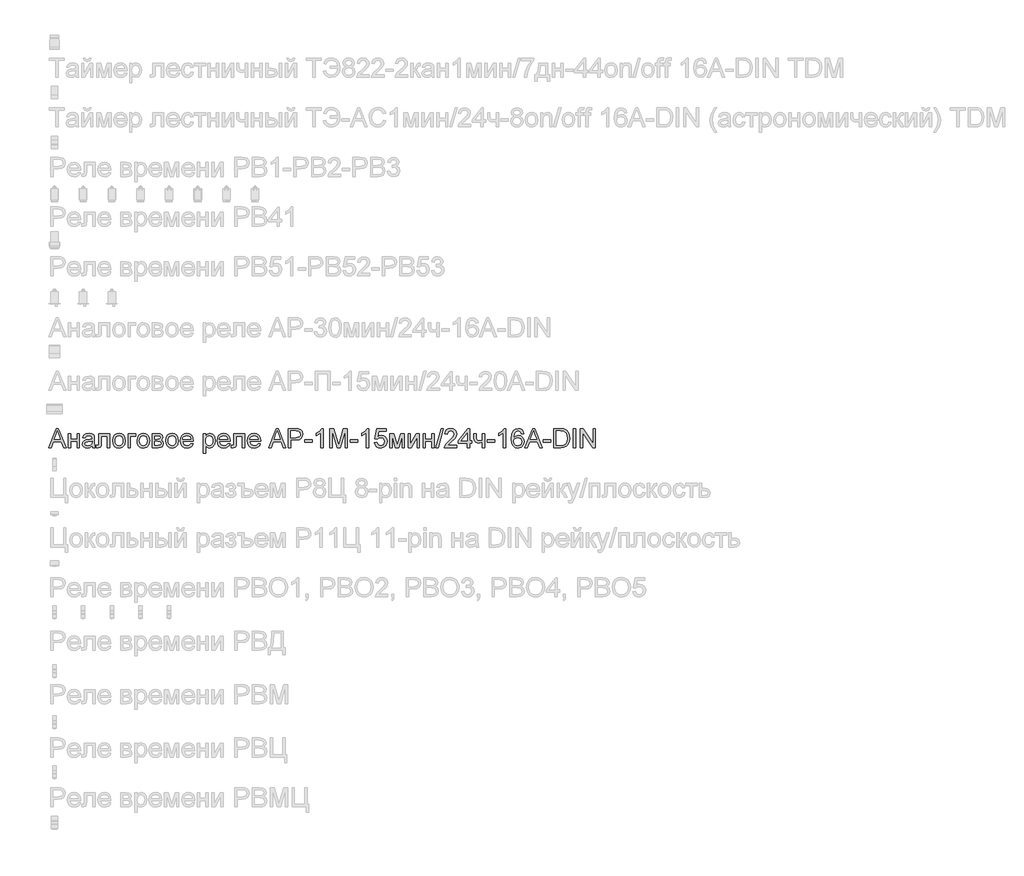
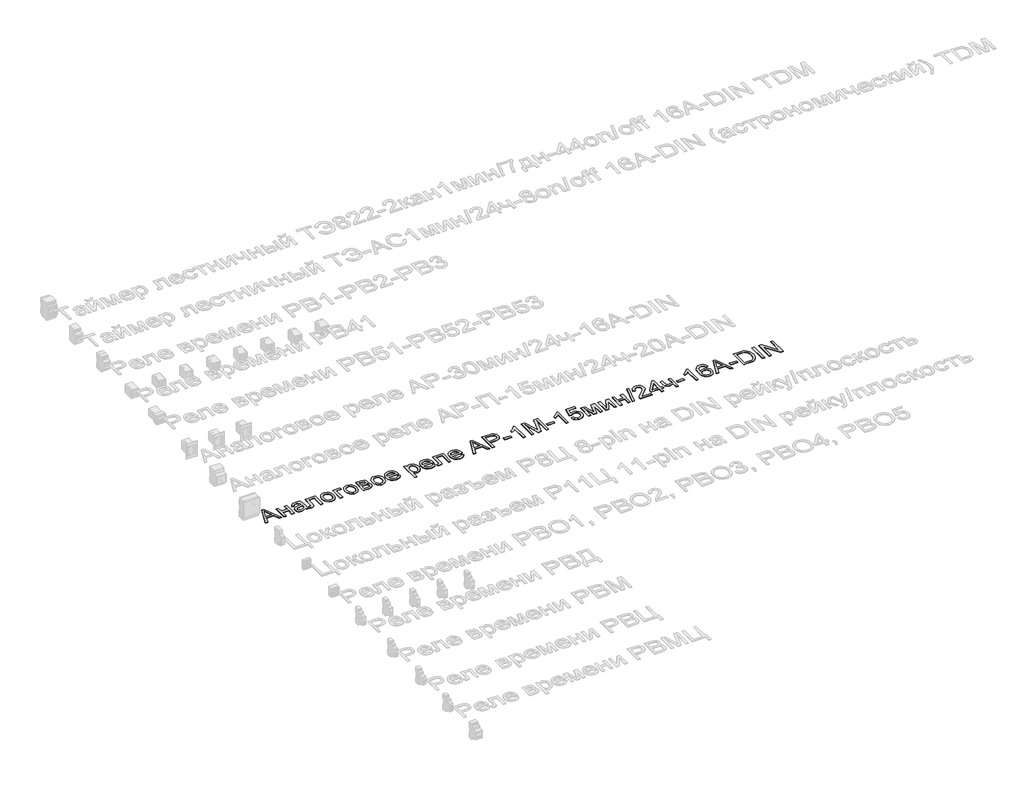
# One storey, part 25 of 34: 1 proxy.
"""IFC4 building model written with IfcOpenShell, lengths in millimetres."""

import ifcopenshell
import ifcopenshell.guid

model = None  # the IFC model being written
_history = None  # IfcOwnerHistory: only IFC2X3 demands one
_inside = {}  # id of a spatial element -> (the spatial element, [elements in it])
_under = {}  # id of a project, library or spatial element -> (it, [spatial elements below it])
_declared = {}  # id of a project -> (the project, [libraries it declares])
_typed = {}  # id of a type object -> (the type object, [elements of that type])
_made_of = {}  # id of a material, layer set ... -> (it, [elements and type objects made of it])


def new_model(schema):
    """Start an empty IFC model of exactly this schema.

    Asked for "IFC4X3", IfcOpenShell would pick the latest addendum, in which some entities
    have other attributes; the version numbers below select the first issue.
    IFC2X3 requires an IfcOwnerHistory on every rooted entity: one is made here for all.
    """
    global model, _history
    if schema == "IFC4X3":
        model = ifcopenshell.file(schema_version=(4, 3, 0, 0))
    else:
        model = ifcopenshell.file(schema=schema)
    _inside.clear()
    _under.clear()
    _declared.clear()
    _typed.clear()
    _made_of.clear()
    _history = None
    if model.schema == "IFC2X3":
        org = make("IfcOrganization", Name="unknown")
        user = make(
            "IfcPersonAndOrganization",
            ThePerson=make("IfcPerson", FamilyName="unknown"),
            TheOrganization=org,
        )
        app = make(
            "IfcApplication",
            ApplicationDeveloper=org,
            Version="unknown",
            ApplicationFullName="unknown",
            ApplicationIdentifier="unknown",
        )
        _history = make(
            "IfcOwnerHistory",
            OwningUser=user,
            OwningApplication=app,
            ChangeAction="ADDED",
            CreationDate=0,
        )
    return model


def make(cls, **values):
    """One entity of the class cls with the attributes given. An attribute that is None is left unset."""
    return model.create_entity(
        cls, **{name: value for name, value in values.items() if value is not None}
    )


def rooted(cls, **values):
    """An entity with a GlobalId (a new one), such as an element, a storey or a relation."""
    return make(cls, GlobalId=ifcopenshell.guid.new(), OwnerHistory=_history, **values)


def si_unit(unit_type, name, prefix=None):
    """IfcSIUnit, for example si_unit("LENGTHUNIT", "METRE", prefix="MILLI")."""
    return make("IfcSIUnit", UnitType=unit_type, Prefix=prefix, Name=name)


def assignment(units):
    """IfcUnitAssignment: the units of a project."""
    return None if units is None else make("IfcUnitAssignment", Units=units)


def point(xyz):
    """IfcCartesianPoint."""
    return None if xyz is None else make("IfcCartesianPoint", Coordinates=xyz)


def direction(xyz):
    """IfcDirection."""
    return None if xyz is None else make("IfcDirection", DirectionRatios=xyz)


def frame(location, z_axis=None, x_axis=None):
    """IfcAxis2Placement3D, a coordinate frame: its origin and axes. An axis left out is left unset."""
    return make(
        "IfcAxis2Placement3D",
        Location=point(location),
        Axis=direction(z_axis),
        RefDirection=direction(x_axis),
    )


def origin():
    """The frame at (0, 0, 0) with its axes left unset."""
    return frame((0.0, 0.0, 0.0))


def place(relative_to, where):
    """IfcLocalPlacement: puts the frame where relative to a parent placement (None: the world)."""
    return make(
        "IfcLocalPlacement", PlacementRelTo=relative_to, RelativePlacement=where
    )


def context(
    kind, dimensions, precision=None, world=None, true_north=None, identifier=None
):
    """IfcGeometricRepresentationContext, for example the 3D "Model" context."""
    return make(
        "IfcGeometricRepresentationContext",
        ContextIdentifier=identifier,
        ContextType=kind,
        CoordinateSpaceDimension=dimensions,
        Precision=precision,
        WorldCoordinateSystem=world,
        TrueNorth=true_north,
    )


def project(units=None, contexts=None):
    """IfcProject with its units and contexts."""
    return rooted(
        "IfcProject",
        Name="project",
        RepresentationContexts=contexts,
        UnitsInContext=assignment(units),
    )


def spatial(cls, under=None, at=None, **own):
    """A site, building, storey or space (cls), placed at a placement, below another one or the project."""
    s = rooted(cls, ObjectPlacement=at, **own)
    if under is not None:
        _under.setdefault(under.id(), (under, []))[1].append(s)
    return s


def polyline(points):
    """IfcPolyline through the points."""
    return make("IfcPolyline", Points=[point(p) for p in points])


def outline(outer, holes=None, kind="AREA"):
    """IfcArbitraryClosedProfileDef: a profile drawn as a closed curve; with holes, ...WithVoids."""
    if holes is None:
        return make("IfcArbitraryClosedProfileDef", ProfileType=kind, OuterCurve=outer)
    return make(
        "IfcArbitraryProfileDefWithVoids",
        ProfileType=kind,
        OuterCurve=outer,
        InnerCurves=holes,
    )


def extrude(swept, where, along, depth):
    """IfcExtrudedAreaSolid: the profile swept, set in the frame where, extruded along a direction by depth."""
    return make(
        "IfcExtrudedAreaSolid",
        SweptArea=swept,
        Position=where,
        ExtrudedDirection=direction(along),
        Depth=depth,
    )


def shape(context_of_items, identifier, shape_type, items):
    """IfcShapeRepresentation: the items that make up one representation, for example the "Body"."""
    return make(
        "IfcShapeRepresentation",
        ContextOfItems=context_of_items,
        RepresentationIdentifier=identifier,
        RepresentationType=shape_type,
        Items=items,
    )


def made_of(thing, what):
    """Note that an element or type object is made of a material, layer set ...; save() writes the relation."""
    if what is not None:
        _made_of.setdefault(what.id(), (what, []))[1].append(thing)
    return thing


def element(
    cls,
    number,
    at=None,
    inside=None,
    cuts=None,
    type_object=None,
    material=None,
    context=None,
    identifier="Body",
    shape_type=None,
    held_by="IfcProductDefinitionShape",
    body=None,
    shapes=None,
    **own,
):
    """One element of the class cls, such as IfcWall. Its Tag is "e" and its number.

    at: its placement. inside: the storey or other place that contains it. cuts: it is an
    opening in that element (IfcRelVoidsElement). A single representation is given by context,
    identifier, shape_type and body (its items); several are given by shapes. held_by: the class
    of the entity that holds the representations. save() writes the other relations.
    """
    e = rooted(cls, Tag="e%d" % number, ObjectPlacement=at, **own)
    if body is not None:
        shapes = [shape(context, identifier, shape_type, body)]
    if shapes is not None:
        e.Representation = make(held_by, Representations=shapes)
    if inside is not None:
        _inside.setdefault(inside.id(), (inside, []))[1].append(e)
    if cuts is not None:
        rooted(
            "IfcRelVoidsElement", RelatingBuildingElement=cuts, RelatedOpeningElement=e
        )
    if type_object is not None:
        _typed.setdefault(type_object.id(), (type_object, []))[1].append(e)
    return made_of(e, material)


def aggregate(whole, parts):
    """IfcRelAggregates: a whole, such as a stair, and the parts it consists of."""
    return rooted("IfcRelAggregates", RelatingObject=whole, RelatedObjects=parts)


def save(model, path):
    """Write the relations noted so far, then the file.

    IfcRelAggregates (storeys below a building ...), IfcRelContainedInSpatialStructure (elements
    in a storey), IfcRelDefinesByType, IfcRelAssociatesMaterial and IfcRelDeclares: one each for
    every whole, place, type object, material and project.
    """
    for whole, parts in _under.values():
        aggregate(whole, parts)
    for where, things in _inside.values():
        rooted(
            "IfcRelContainedInSpatialStructure",
            RelatedElements=things,
            RelatingStructure=where,
        )
    for kind, things in _typed.values():
        rooted("IfcRelDefinesByType", RelatedObjects=things, RelatingType=kind)
    for what, things in _made_of.values():
        rooted("IfcRelAssociatesMaterial", RelatedObjects=things, RelatingMaterial=what)
    for by, libraries in _declared.values():
        rooted("IfcRelDeclares", RelatingContext=by, RelatedDefinitions=libraries)
    model.write(path)


model = new_model("IFC4")

# Units and contexts
model_context = context("Model", 3, world=origin())
ifc_project = project(units=[si_unit("LENGTHUNIT", "METRE", prefix="MILLI")], contexts=[model_context])

# Site, building, storey
site = spatial("IfcSite", under=ifc_project)
building = spatial("IfcBuilding", under=site)
storey = spatial("IfcBuildingStorey", under=building, Name="Этаж 01", Elevation=0.0)

# Proxy
placement = place(None, origin())
element("IfcBuildingElementProxy", 1, Name="Надпись на модели 1", ObjectType="Надпись на модели 1", at=placement, inside=storey, context=model_context, shape_type="SweptSolid", body=[
    extrude(outline(polyline([(-19050.7112385, 15376.235284), (-19010.612101, 15476.6915941), (-18999.9189977, 15476.6915941), (-18959.8198602, 15376.235284), (-18973.0881375, 15376.235284), (-18984.5905813, 15407.6278809), (-19025.965043, 15407.6278809), (-19037.4429612, 15376.235284), (-19050.7112385, 15376.235284)]), holes=[polyline([(-19021.3542553, 15420.1849197), (-18989.1768435, 15420.1849197), (-18998.2267405, 15444.8820643), (-19005.2655494, 15464.1345554), (-19011.5195433, 15447.0403053), (-19021.3542553, 15420.1849197)])]), frame((0.0, 0.0, 40.0), z_axis=(0.0, 0.0, 1.0), x_axis=(1.0, 0.0, 0.0)), (0.0, 0.0, 1.0), 2.0),
    extrude(outline(polyline([(-18947.97406, 15450.0078868), (-18935.4170212, 15450.0078868), (-18935.4170212, 15421.7545495), (-18902.4547945, 15421.7545495), (-18902.4547945, 15450.0078868), (-18889.8977557, 15450.0078868), (-18889.8977557, 15376.235284), (-18902.4547945, 15376.235284), (-18902.4547945, 15409.1975108), (-18935.4170212, 15409.1975108), (-18935.4170212, 15376.235284), (-18947.97406, 15376.235284), (-18947.97406, 15450.0078868)])), frame((0.0, 0.0, 40.0), z_axis=(0.0, 0.0, 1.0), x_axis=(1.0, 0.0, 0.0)), (0.0, 0.0, 1.0), 2.0),
    extrude(outline(polyline([(-18823.9733022, 15385.6530631), (-18836.1501962, 15377.1427262), (-18849.6024145, 15374.6656541), (-18860.0962484, 15376.1555762), (-18867.8370987, 15380.6253425), (-18872.6103676, 15387.4127653), (-18874.2014572, 15395.8556571), (-18871.7979615, 15405.7884709), (-18865.482654, 15412.998958), (-18856.6902743, 15417.1192364), (-18845.8254927, 15419.0076973), (-18824.0468786, 15423.3241794), (-18823.9733022, 15426.1200825), (-18827.4313929, 15435.3907088), (-18841.3128069, 15439.0204778), (-18854.0169984, 15436.6047194), (-18860.0747886, 15428.0330689), (-18872.6318274, 15429.6026988), (-18867.1994366, 15441.8654319), (-18856.2610786, 15449.0513936), (-18839.6941261, 15451.5775166), (-18824.4760742, 15449.3456992), (-18815.8798983, 15443.7416301), (-18812.0294001, 15435.2190306), (-18811.4162634, 15424.2316216), (-18811.4162634, 15408.6088996), (-18810.7786013, 15386.7934973), (-18808.2770037, 15376.235284), (-18820.8340425, 15376.235284), (-18823.9733022, 15385.6530631)]), holes=[polyline([(-18823.9733022, 15410.7671406), (-18844.2313374, 15406.9166424), (-18855.0348053, 15404.8810287), (-18859.9276358, 15401.5700907), (-18861.6444185, 15396.7385739), (-18857.9042849, 15389.9450197), (-18846.9291387, 15387.2226929), (-18834.2249471, 15390.2270625), (-18826.0334413, 15397.4988633), (-18824.0468786, 15407.210948), (-18823.9733022, 15410.7671406)])]), frame((0.0, 0.0, 40.0), z_axis=(0.0, 0.0, 1.0), x_axis=(1.0, 0.0, 0.0)), (0.0, 0.0, 1.0), 2.0),
    extrude(outline(polyline([(-18787.8718157, 15450.0078868), (-18731.3651412, 15450.0078868), (-18731.3651412, 15376.3088604), (-18743.92218, 15376.3088604), (-18743.92218, 15437.450848), (-18775.3147769, 15437.450848), (-18775.3147769, 15402.2568038), (-18776.1609055, 15386.0209451), (-18780.8084814, 15379.1660772), (-18791.7958903, 15376.235284), (-18801.9984843, 15376.8729461), (-18801.9984843, 15388.7923228), (-18796.3821525, 15388.7923228), (-18790.7045071, 15389.564875), (-18788.4359014, 15392.0174216), (-18787.8718157, 15402.9680423), (-18787.8718157, 15450.0078868)])), frame((0.0, 0.0, 40.0), z_axis=(0.0, 0.0, 1.0), x_axis=(1.0, 0.0, 0.0)), (0.0, 0.0, 1.0), 2.0),
    extrude(outline(polyline([(-18715.6688428, 15413.1215854), (-18712.9526474, 15430.9086798), (-18704.8040612, 15443.4105363), (-18694.7363573, 15449.5357715), (-18682.6820905, 15451.5775166), (-18669.4904553, 15449.0912475), (-18658.9537019, 15441.63244), (-18652.0467174, 15429.7897054), (-18649.7443892, 15414.151655), (-18653.8156167, 15391.8089551), (-18665.6736796, 15379.1660772), (-18682.6820905, 15374.6656541), (-18696.0331413, 15377.1427262), (-18706.557632, 15384.5739426), (-18713.3910401, 15396.6649975), (-18715.6688428, 15413.1215854)]), holes=[polyline([(-18703.111804, 15413.1461108), (-18701.6586701, 15401.7816229), (-18697.2992685, 15393.6851533), (-18690.7387062, 15388.838308), (-18682.6820905, 15387.2226929), (-18674.6622631, 15388.8475051), (-18668.1139635, 15393.7219415), (-18663.7545619, 15401.92571), (-18662.301428, 15413.5385183), (-18663.7637589, 15424.5719125), (-18668.1507517, 15432.5580175), (-18674.7082483, 15437.4048627), (-18682.6820905, 15439.0204778), (-18690.7387062, 15437.4109941), (-18697.2992685, 15432.5825429), (-18701.6586701, 15424.5044674), (-18703.111804, 15413.1461108)])]), frame((0.0, 0.0, 40.0), z_axis=(0.0, 0.0, 1.0), x_axis=(1.0, 0.0, 0.0)), (0.0, 0.0, 1.0), 2.0),
    extrude(outline(polyline([(-18635.6177206, 15450.0078868), (-18594.8073446, 15450.0078868), (-18594.8073446, 15437.450848), (-18623.0606819, 15437.450848), (-18623.0606819, 15376.235284), (-18635.6177206, 15376.235284), (-18635.6177206, 15450.0078868)])), frame((0.0, 0.0, 40.0), z_axis=(0.0, 0.0, 1.0), x_axis=(1.0, 0.0, 0.0)), (0.0, 0.0, 1.0), 2.0),
    extrude(outline(polyline([(-18588.5288253, 15413.1215854), (-18585.8126299, 15430.9086798), (-18577.6640437, 15443.4105363), (-18567.5963397, 15449.5357715), (-18555.542073, 15451.5775166), (-18542.3504378, 15449.0912475), (-18531.8136843, 15441.63244), (-18524.9066999, 15429.7897054), (-18522.6043717, 15414.151655), (-18526.6755991, 15391.8089551), (-18538.5336621, 15379.1660772), (-18555.542073, 15374.6656541), (-18568.8931238, 15377.1427262), (-18579.4176145, 15384.5739426), (-18586.2510226, 15396.6649975), (-18588.5288253, 15413.1215854)]), holes=[polyline([(-18575.9717865, 15413.1461108), (-18574.5186526, 15401.7816229), (-18570.159251, 15393.6851533), (-18563.5986887, 15388.838308), (-18555.542073, 15387.2226929), (-18547.5222455, 15388.8475051), (-18540.973946, 15393.7219415), (-18536.6145444, 15401.92571), (-18535.1614105, 15413.5385183), (-18536.6237414, 15424.5719125), (-18541.0107342, 15432.5580175), (-18547.5682308, 15437.4048627), (-18555.542073, 15439.0204778), (-18563.5986887, 15437.4109941), (-18570.159251, 15432.5825429), (-18574.5186526, 15424.5044674), (-18575.9717865, 15413.1461108)])]), frame((0.0, 0.0, 40.0), z_axis=(0.0, 0.0, 1.0), x_axis=(1.0, 0.0, 0.0)), (0.0, 0.0, 1.0), 2.0),
    extrude(outline(polyline([(-18508.4777031, 15450.0078868), (-18480.8129771, 15450.0078868), (-18465.6439761, 15448.3278923), (-18457.1091138, 15442.1720003), (-18453.5406585, 15431.4421087), (-18455.6988995, 15422.7233055), (-18462.1981481, 15416.5060997), (-18453.7613877, 15409.7002828), (-18450.4013988, 15397.8667453), (-18452.528983, 15388.2956821), (-18457.5873604, 15381.5573102), (-18465.5949252, 15377.5657905), (-18476.5700714, 15376.235284), (-18508.4777031, 15376.235284), (-18508.4777031, 15450.0078868)]), holes=[polyline([(-18495.9206643, 15388.7923228), (-18480.5186715, 15388.7923228), (-18466.8579867, 15391.0609284), (-18462.9584376, 15398.8968149), (-18465.1044159, 15404.9423424), (-18470.6962222, 15408.4617468), (-18481.7449448, 15409.1975108), (-18495.9206643, 15409.1975108), (-18495.9206643, 15388.7923228)]), polyline([(-18495.9206643, 15421.7545495), (-18483.5107784, 15421.7545495), (-18473.2713962, 15422.3922117), (-18468.2927265, 15424.9428602), (-18466.0976973, 15429.5536478), (-18469.9481955, 15435.7095399), (-18483.1183709, 15437.450848), (-18495.9206643, 15437.450848), (-18495.9206643, 15421.7545495)])]), frame((0.0, 0.0, 40.0), z_axis=(0.0, 0.0, 1.0), x_axis=(1.0, 0.0, 0.0)), (0.0, 0.0, 1.0), 2.0),
    extrude(outline(polyline([(-18437.84436, 15413.1215854), (-18435.1281646, 15430.9086798), (-18426.9795784, 15443.4105363), (-18416.9118745, 15449.5357715), (-18404.8576078, 15451.5775166), (-18391.6659726, 15449.0912475), (-18381.1292191, 15441.63244), (-18374.2222346, 15429.7897054), (-18371.9199065, 15414.151655), (-18375.9911339, 15391.8089551), (-18387.8491969, 15379.1660772), (-18404.8576078, 15374.6656541), (-18418.2086585, 15377.1427262), (-18428.7331493, 15384.5739426), (-18435.5665573, 15396.6649975), (-18437.84436, 15413.1215854)]), holes=[polyline([(-18425.2873213, 15413.1461108), (-18423.8341874, 15401.7816229), (-18419.4747857, 15393.6851533), (-18412.9142235, 15388.838308), (-18404.8576078, 15387.2226929), (-18396.8377803, 15388.8475051), (-18390.2894808, 15393.7219415), (-18385.9300791, 15401.92571), (-18384.4769453, 15413.5385183), (-18385.9392762, 15424.5719125), (-18390.326269, 15432.5580175), (-18396.8837655, 15437.4048627), (-18404.8576078, 15439.0204778), (-18412.9142235, 15437.4109941), (-18419.4747857, 15432.5825429), (-18423.8341874, 15424.5044674), (-18425.2873213, 15413.1461108)])]), frame((0.0, 0.0, 40.0), z_axis=(0.0, 0.0, 1.0), x_axis=(1.0, 0.0, 0.0)), (0.0, 0.0, 1.0), 2.0),
    extrude(outline(polyline([(-18306.1426058, 15398.2101018), (-18293.8308216, 15396.640472), (-18298.2668654, 15387.3637143), (-18305.3455281, 15380.4291387), (-18314.9073943, 15376.1065253), (-18326.7930484, 15374.6656541), (-18341.5267223, 15377.1519233), (-18352.8636191, 15384.6107308), (-18360.0925003, 15396.5576985), (-18362.5021274, 15412.5084487), (-18360.0679749, 15428.9956935), (-18352.7655173, 15441.3258717), (-18341.5819046, 15449.0146054), (-18327.5042869, 15451.5775166), (-18313.865062, 15449.0207367), (-18302.9665579, 15441.3503971), (-18295.8204501, 15429.0447444), (-18293.4384142, 15412.5820251), (-18293.5119906, 15409.1975108), (-18349.9450886, 15409.1975108), (-18347.7715192, 15399.7981258), (-18342.7223388, 15392.8880756), (-18335.4352096, 15388.6390386), (-18326.5477938, 15387.2226929), (-18314.2360096, 15389.8469178), (-18306.1426058, 15398.2101018)]), holes=[polyline([(-18349.9450886, 15421.7545495), (-18305.995453, 15421.7545495), (-18311.0231736, 15433.1343659), (-18318.3440253, 15437.5489499), (-18327.5533379, 15439.0204778), (-18343.0166444, 15434.323851), (-18347.8818838, 15428.8332123), (-18349.9450886, 15421.7545495)])]), frame((0.0, 0.0, 40.0), z_axis=(0.0, 0.0, 1.0), x_axis=(1.0, 0.0, 0.0)), (0.0, 0.0, 1.0), 2.0),
    extrude(outline(polyline([(-18241.6406293, 15347.9819468), (-18241.6406293, 15450.0078868), (-18229.0835905, 15450.0078868), (-18229.0835905, 15437.6961027), (-18220.4015754, 15448.1071631), (-18208.6784025, 15451.5775166), (-18192.7613748, 15446.7214743), (-18182.3625771, 15433.036264), (-18178.8554354, 15413.6856711), (-18182.8162982, 15393.3417968), (-18194.318742, 15379.4849083), (-18210.1989814, 15374.6656541), (-18221.1250767, 15377.890753), (-18229.0835905, 15386.0454705), (-18229.0835905, 15347.9819468), (-18241.6406293, 15347.9819468)]), holes=[polyline([(-18229.0835905, 15412.5329742), (-18227.7254928, 15401.2757851), (-18223.6511997, 15393.4031104), (-18217.6393948, 15388.7677973), (-18210.4687615, 15387.2226929), (-18203.1816324, 15388.8229796), (-18197.0165432, 15393.6238396), (-18192.8134915, 15401.7846886), (-18191.4124742, 15413.4649419), (-18192.7797689, 15424.6608173), (-18196.8816532, 15432.6438566), (-18202.8842611, 15437.4263225), (-18209.9537267, 15439.0204778), (-18217.0507836, 15437.325155), (-18223.2833177, 15432.2391864), (-18227.6335223, 15423.9219876), (-18229.0835905, 15412.5329742)])]), frame((0.0, 0.0, 40.0), z_axis=(0.0, 0.0, 1.0), x_axis=(1.0, 0.0, 0.0)), (0.0, 0.0, 1.0), 2.0),
    extrude(outline(polyline([(-18113.0781347, 15398.2101018), (-18100.7663506, 15396.640472), (-18105.2023943, 15387.3637143), (-18112.281057, 15380.4291387), (-18121.8429232, 15376.1065253), (-18133.7285773, 15374.6656541), (-18148.4622513, 15377.1519233), (-18159.7991481, 15384.6107308), (-18167.0280293, 15396.5576985), (-18169.4376563, 15412.5084487), (-18167.0035038, 15428.9956935), (-18159.7010462, 15441.3258717), (-18148.5174336, 15449.0146054), (-18134.4398159, 15451.5775166), (-18120.8005909, 15449.0207367), (-18109.9020868, 15441.3503971), (-18102.755979, 15429.0447444), (-18100.3739431, 15412.5820251), (-18100.4475195, 15409.1975108), (-18156.8806176, 15409.1975108), (-18154.7070481, 15399.7981258), (-18149.6578677, 15392.8880756), (-18142.3707385, 15388.6390386), (-18133.4833227, 15387.2226929), (-18121.1715386, 15389.8469178), (-18113.0781347, 15398.2101018)]), holes=[polyline([(-18156.8806176, 15421.7545495), (-18112.9309819, 15421.7545495), (-18117.9587025, 15433.1343659), (-18125.2795542, 15437.5489499), (-18134.4888668, 15439.0204778), (-18149.9521733, 15434.323851), (-18154.8174127, 15428.8332123), (-18156.8806176, 15421.7545495)])]), frame((0.0, 0.0, 40.0), z_axis=(0.0, 0.0, 1.0), x_axis=(1.0, 0.0, 0.0)), (0.0, 0.0, 1.0), 2.0),
    extrude(outline(polyline([(-18081.538385, 15450.0078868), (-18025.0317105, 15450.0078868), (-18025.0317105, 15376.3088604), (-18037.5887493, 15376.3088604), (-18037.5887493, 15437.450848), (-18068.9813462, 15437.450848), (-18068.9813462, 15402.2568038), (-18069.8274748, 15386.0209451), (-18074.4750507, 15379.1660772), (-18085.4624596, 15376.235284), (-18095.6650536, 15376.8729461), (-18095.6650536, 15388.7923228), (-18090.0487218, 15388.7923228), (-18084.3710763, 15389.564875), (-18082.1024707, 15392.0174216), (-18081.538385, 15402.9680423), (-18081.538385, 15450.0078868)])), frame((0.0, 0.0, 40.0), z_axis=(0.0, 0.0, 1.0), x_axis=(1.0, 0.0, 0.0)), (0.0, 0.0, 1.0), 2.0),
    extrude(outline(polyline([(-17954.5455202, 15398.2101018), (-17942.2337361, 15396.640472), (-17946.6697798, 15387.3637143), (-17953.7484426, 15380.4291387), (-17963.3103088, 15376.1065253), (-17975.1959629, 15374.6656541), (-17989.9296368, 15377.1519233), (-18001.2665336, 15384.6107308), (-18008.4954148, 15396.5576985), (-18010.9050419, 15412.5084487), (-18008.4708894, 15428.9956935), (-18001.1684318, 15441.3258717), (-17989.9848191, 15449.0146054), (-17975.9072014, 15451.5775166), (-17962.2679764, 15449.0207367), (-17951.3694723, 15441.3503971), (-17944.2233646, 15429.0447444), (-17941.8413287, 15412.5820251), (-17941.9149051, 15409.1975108), (-17998.3480031, 15409.1975108), (-17996.1744337, 15399.7981258), (-17991.1252533, 15392.8880756), (-17983.8381241, 15388.6390386), (-17974.9507082, 15387.2226929), (-17962.6389241, 15389.8469178), (-17954.5455202, 15398.2101018)]), holes=[polyline([(-17998.3480031, 15421.7545495), (-17954.3983674, 15421.7545495), (-17959.426088, 15433.1343659), (-17966.7469397, 15437.5489499), (-17975.9562523, 15439.0204778), (-17991.4195589, 15434.323851), (-17996.2847983, 15428.8332123), (-17998.3480031, 15421.7545495)])]), frame((0.0, 0.0, 40.0), z_axis=(0.0, 0.0, 1.0), x_axis=(1.0, 0.0, 0.0)), (0.0, 0.0, 1.0), 2.0),
    extrude(outline(polyline([(-17900.1725613, 15376.235284), (-17860.0734239, 15476.6915941), (-17849.3803205, 15476.6915941), (-17809.2811831, 15376.235284), (-17822.5494604, 15376.235284), (-17834.0519041, 15407.6278809), (-17875.4263658, 15407.6278809), (-17886.904284, 15376.235284), (-17900.1725613, 15376.235284)]), holes=[polyline([(-17870.8155781, 15420.1849197), (-17838.6381663, 15420.1849197), (-17847.6880634, 15444.8820643), (-17854.7268722, 15464.1345554), (-17860.9808661, 15447.0403053), (-17870.8155781, 15420.1849197)])]), frame((0.0, 0.0, 40.0), z_axis=(0.0, 0.0, 1.0), x_axis=(1.0, 0.0, 0.0)), (0.0, 0.0, 1.0), 2.0),
    extrude(outline(polyline([(-17795.865753, 15376.235284), (-17795.865753, 15476.6915941), (-17758.6360951, 15476.6915941), (-17743.6265097, 15475.735101), (-17731.4250902, 15471.0384742), (-17723.5156273, 15461.3263895), (-17720.5235204, 15447.6289165), (-17722.5438057, 15435.7892476), (-17728.6046615, 15425.9238788), (-17739.9384927, 15419.2652147), (-17757.7777037, 15417.04566), (-17783.3087142, 15417.04566), (-17783.3087142, 15376.235284), (-17795.865753, 15376.235284)]), holes=[polyline([(-17783.3087142, 15429.6026988), (-17757.0419398, 15429.6026988), (-17738.5497381, 15434.2134864), (-17734.4478539, 15439.7623732), (-17733.0805591, 15447.1874581), (-17736.305658, 15457.5862559), (-17744.7792066, 15463.2761641), (-17757.3362453, 15464.1345554), (-17783.3087142, 15464.1345554), (-17783.3087142, 15429.6026988)])]), frame((0.0, 0.0, 40.0), z_axis=(0.0, 0.0, 1.0), x_axis=(1.0, 0.0, 0.0)), (0.0, 0.0, 1.0), 2.0),
    extrude(outline(polyline([(-17711.1057413, 15406.0582511), (-17711.1057413, 15418.6152898), (-17671.8649951, 15418.6152898), (-17671.8649951, 15406.0582511), (-17711.1057413, 15406.0582511)])), frame((0.0, 0.0, 40.0), z_axis=(0.0, 0.0, 1.0), x_axis=(1.0, 0.0, 0.0)), (0.0, 0.0, 1.0), 2.0),
    extrude(outline(polyline([(-17613.7886908, 15376.235284), (-17626.3457296, 15376.235284), (-17626.3457296, 15454.5205726), (-17638.2405808, 15446.0470239), (-17651.4598071, 15439.7071909), (-17651.4598071, 15451.5775166), (-17633.0534446, 15463.325215), (-17621.8820947, 15476.6915941), (-17613.7886908, 15476.6915941), (-17613.7886908, 15376.235284)])), frame((0.0, 0.0, 40.0), z_axis=(0.0, 0.0, 1.0), x_axis=(1.0, 0.0, 0.0)), (0.0, 0.0, 1.0), 2.0),
    extrude(outline(polyline([(-17579.2568342, 15376.235284), (-17579.2568342, 15476.6915941), (-17557.6498984, 15476.6915941), (-17537.0975576, 15405.8865728), (-17532.9527538, 15391.0977166), (-17528.4645934, 15407.1128461), (-17508.2556091, 15476.6915941), (-17486.6486733, 15476.6915941), (-17486.6486733, 15376.235284), (-17499.2057121, 15376.235284), (-17499.2057121, 15464.1345554), (-17524.4424169, 15376.235284), (-17541.4630906, 15376.235284), (-17566.6997954, 15464.1345554), (-17566.6997954, 15376.235284), (-17579.2568342, 15376.235284)])), frame((0.0, 0.0, 40.0), z_axis=(0.0, 0.0, 1.0), x_axis=(1.0, 0.0, 0.0)), (0.0, 0.0, 1.0), 2.0),
    extrude(outline(polyline([(-17472.5220047, 15406.0582511), (-17472.5220047, 15418.6152898), (-17433.2812585, 15418.6152898), (-17433.2812585, 15406.0582511), (-17472.5220047, 15406.0582511)])), frame((0.0, 0.0, 40.0), z_axis=(0.0, 0.0, 1.0), x_axis=(1.0, 0.0, 0.0)), (0.0, 0.0, 1.0), 2.0),
    extrude(outline(polyline([(-17375.2049542, 15376.235284), (-17387.761993, 15376.235284), (-17387.761993, 15454.5205726), (-17399.6568442, 15446.0470239), (-17412.8760705, 15439.7071909), (-17412.8760705, 15451.5775166), (-17394.469708, 15463.325215), (-17383.2983581, 15476.6915941), (-17375.2049542, 15476.6915941), (-17375.2049542, 15376.235284)])), frame((0.0, 0.0, 40.0), z_axis=(0.0, 0.0, 1.0), x_axis=(1.0, 0.0, 0.0)), (0.0, 0.0, 1.0), 2.0),
    extrude(outline(polyline([(-17345.3819871, 15402.9189914), (-17332.8249484, 15404.4886212), (-17326.4973781, 15391.5514377), (-17313.3762536, 15387.2226929), (-17304.3754074, 15388.7279434), (-17297.6309042, 15393.2436949), (-17293.4186553, 15400.2487812), (-17292.0145724, 15409.2220362), (-17297.2752849, 15424.1335198), (-17303.8818324, 15428.235404), (-17313.1800498, 15429.6026988), (-17324.204247, 15427.4199323), (-17331.2553185, 15421.7545495), (-17343.8123573, 15423.3241794), (-17332.8249484, 15475.1219643), (-17284.1664232, 15475.1219643), (-17284.1664232, 15462.5649255), (-17322.6714053, 15462.5649255), (-17328.0424824, 15434.9001995), (-17319.0722931, 15440.344853), (-17309.6729082, 15442.1597375), (-17297.9405382, 15439.909526), (-17288.2008624, 15433.1588914), (-17281.6433658, 15422.8704582), (-17279.4575336, 15410.0068512), (-17281.4257023, 15397.4498124), (-17287.3302083, 15386.7076581), (-17298.6364483, 15377.6761551), (-17313.4253045, 15374.6656541), (-17325.7585484, 15376.6001003), (-17335.5840633, 15382.4034388), (-17342.3193695, 15391.4012192), (-17345.3819871, 15402.9189914)])), frame((0.0, 0.0, 40.0), z_axis=(0.0, 0.0, 1.0), x_axis=(1.0, 0.0, 0.0)), (0.0, 0.0, 1.0), 2.0),
    extrude(outline(polyline([(-17265.330865, 15450.0078868), (-17243.7239291, 15450.0078868), (-17227.0711375, 15390.9505638), (-17209.1184961, 15450.0078868), (-17188.4190025, 15450.0078868), (-17188.4190025, 15376.235284), (-17200.9760413, 15376.235284), (-17200.9760413, 15435.6359635), (-17219.0267845, 15376.235284), (-17235.5078979, 15376.235284), (-17252.7738262, 15438.4809176), (-17252.7738262, 15376.235284), (-17265.330865, 15376.235284), (-17265.330865, 15450.0078868)])), frame((0.0, 0.0, 40.0), z_axis=(0.0, 0.0, 1.0), x_axis=(1.0, 0.0, 0.0)), (0.0, 0.0, 1.0), 2.0),
    extrude(outline(polyline([(-17169.5834444, 15450.0078868), (-17157.0264056, 15450.0078868), (-17157.0264056, 15393.746467), (-17126.173369, 15450.0078868), (-17109.9375102, 15450.0078868), (-17109.9375102, 15376.235284), (-17122.494549, 15376.235284), (-17122.494549, 15432.1533473), (-17153.1513819, 15376.235284), (-17169.5834444, 15376.235284), (-17169.5834444, 15450.0078868)])), frame((0.0, 0.0, 40.0), z_axis=(0.0, 0.0, 1.0), x_axis=(1.0, 0.0, 0.0)), (0.0, 0.0, 1.0), 2.0),
    extrude(outline(polyline([(-17091.1019521, 15450.0078868), (-17078.5449133, 15450.0078868), (-17078.5449133, 15421.7545495), (-17045.5826865, 15421.7545495), (-17045.5826865, 15450.0078868), (-17033.0256478, 15450.0078868), (-17033.0256478, 15376.235284), (-17045.5826865, 15376.235284), (-17045.5826865, 15409.1975108), (-17078.5449133, 15409.1975108), (-17078.5449133, 15376.235284), (-17091.1019521, 15376.235284), (-17091.1019521, 15450.0078868)])), frame((0.0, 0.0, 40.0), z_axis=(0.0, 0.0, 1.0), x_axis=(1.0, 0.0, 0.0)), (0.0, 0.0, 1.0), 2.0),
    extrude(outline(polyline([(-17023.6078687, 15376.235284), (-16995.3545315, 15476.6915941), (-16984.023766, 15476.6915941), (-17012.2771032, 15376.235284), (-17023.6078687, 15376.235284)])), frame((0.0, 0.0, 40.0), z_axis=(0.0, 0.0, 1.0), x_axis=(1.0, 0.0, 0.0)), (0.0, 0.0, 1.0), 2.0),
    extrude(outline(polyline([(-16913.7337795, 15388.7923228), (-16913.7337795, 15376.235284), (-16979.658233, 15376.235284), (-16978.3093324, 15384.8927736), (-16970.6819123, 15398.2223646), (-16954.9610884, 15412.7782288), (-16933.2805762, 15433.6984516), (-16927.8604481, 15447.9232221), (-16932.9740078, 15459.4379286), (-16946.3281242, 15464.1345554), (-16960.2463264, 15459.5482932), (-16965.5315644, 15446.8686271), (-16978.0886032, 15448.4382569), (-16975.0443797, 15460.5844941), (-16968.4623576, 15469.4565816), (-16958.6858936, 15474.882841), (-16946.0583441, 15476.6915941), (-16933.3388241, 15474.6805059), (-16923.5807542, 15468.6472412), (-16917.3727455, 15459.6341323), (-16915.3034093, 15448.6835116), (-16917.5352268, 15436.7763977), (-16924.9541803, 15424.4646136), (-16942.9436099, 15407.2599989), (-16957.3891096, 15395.1812067), (-16963.0544923, 15388.7923228), (-16913.7337795, 15388.7923228)])), frame((0.0, 0.0, 40.0), z_axis=(0.0, 0.0, 1.0), x_axis=(1.0, 0.0, 0.0)), (0.0, 0.0, 1.0), 2.0),
    extrude(outline(polyline([(-16860.3663647, 15376.235284), (-16860.3663647, 15399.7797317), (-16905.8856302, 15399.7797317), (-16905.8856302, 15412.3367705), (-16857.227105, 15475.1219643), (-16847.8093259, 15475.1219643), (-16847.8093259, 15412.3367705), (-16835.2522872, 15412.3367705), (-16835.2522872, 15399.7797317), (-16847.8093259, 15399.7797317), (-16847.8093259, 15376.235284), (-16860.3663647, 15376.235284)]), holes=[polyline([(-16860.3663647, 15412.3367705), (-16860.3663647, 15451.1360582), (-16890.4345864, 15412.3367705), (-16860.3663647, 15412.3367705)])]), frame((0.0, 0.0, 40.0), z_axis=(0.0, 0.0, 1.0), x_axis=(1.0, 0.0, 0.0)), (0.0, 0.0, 1.0), 2.0),
    extrude(outline(polyline([(-16825.8345081, 15450.0078868), (-16813.2774693, 15450.0078868), (-16813.2774693, 15435.8566927), (-16812.2596625, 15422.5884154), (-16807.3668319, 15415.4024537), (-16797.6547473, 15412.3367705), (-16780.3152426, 15416.1382177), (-16780.3152426, 15450.0078868), (-16767.7582038, 15450.0078868), (-16767.7582038, 15376.235284), (-16780.3152426, 15376.235284), (-16780.3152426, 15404.0962138), (-16801.0147362, 15399.7797317), (-16815.2517694, 15404.2801548), (-16823.6272161, 15415.3043519), (-16825.8345081, 15429.6517497), (-16825.8345081, 15450.0078868)])), frame((0.0, 0.0, 40.0), z_axis=(0.0, 0.0, 1.0), x_axis=(1.0, 0.0, 0.0)), (0.0, 0.0, 1.0), 2.0),
    extrude(outline(polyline([(-16755.201165, 15406.0582511), (-16755.201165, 15418.6152898), (-16715.9604189, 15418.6152898), (-16715.9604189, 15406.0582511), (-16755.201165, 15406.0582511)])), frame((0.0, 0.0, 40.0), z_axis=(0.0, 0.0, 1.0), x_axis=(1.0, 0.0, 0.0)), (0.0, 0.0, 1.0), 2.0),
    extrude(outline(polyline([(-16657.8841146, 15376.235284), (-16670.4411533, 15376.235284), (-16670.4411533, 15454.5205726), (-16682.3360045, 15446.0470239), (-16695.5552309, 15439.7071909), (-16695.5552309, 15451.5775166), (-16677.1488684, 15463.325215), (-16665.9775185, 15476.6915941), (-16657.8841146, 15476.6915941), (-16657.8841146, 15376.235284)])), frame((0.0, 0.0, 40.0), z_axis=(0.0, 0.0, 1.0), x_axis=(1.0, 0.0, 0.0)), (0.0, 0.0, 1.0), 2.0),
    extrude(outline(polyline([(-16563.7063238, 15450.0078868), (-16576.2633626, 15448.4382569), (-16581.021303, 15458.910631), (-16593.6028673, 15464.1345554), (-16604.9336327, 15461.0933975), (-16613.5052832, 15449.676793), (-16617.0737386, 15427.2973049), (-16606.0004905, 15437.3159579), (-16592.2784921, 15440.5901077), (-16580.6779465, 15438.3521589), (-16570.9413364, 15431.6383125), (-16564.3378546, 15421.3805362), (-16562.136694, 15408.5107977), (-16566.2814978, 15391.1835557), (-16577.6858396, 15378.9208226), (-16594.1424275, 15374.6656541), (-16608.3886578, 15377.4860828), (-16619.7347517, 15385.9473687), (-16627.1567709, 15400.8833777), (-16629.6307773, 15423.1279756), (-16626.8839251, 15448.13782), (-16618.6433684, 15465.2382014), (-16607.3923107, 15473.8282459), (-16592.8180523, 15476.6915941), (-16581.7999866, 15474.9196292), (-16572.9769501, 15469.6037344), (-16566.7965326, 15461.1608426), (-16563.7063238, 15450.0078868)]), holes=[polyline([(-16617.0737386, 15408.7070014), (-16614.1674708, 15397.8299571), (-16606.4419489, 15389.9327569), (-16595.1234462, 15387.2226929), (-16586.8369042, 15388.6267759), (-16580.3223272, 15392.8390247), (-16576.1008814, 15399.4609006), (-16574.6937327, 15408.0938648), (-16576.0824873, 15416.3804067), (-16580.2487508, 15422.69878), (-16586.8736924, 15426.6994967), (-16595.638481, 15428.0330689), (-16610.8320074, 15422.69878), (-16615.5133058, 15416.5336909), (-16617.0737386, 15408.7070014)])]), frame((0.0, 0.0, 40.0), z_axis=(0.0, 0.0, 1.0), x_axis=(1.0, 0.0, 0.0)), (0.0, 0.0, 1.0), 2.0),
    extrude(outline(polyline([(-16558.1390429, 15376.235284), (-16518.0399055, 15476.6915941), (-16507.3468021, 15476.6915941), (-16467.2476647, 15376.235284), (-16480.515942, 15376.235284), (-16492.0183857, 15407.6278809), (-16533.3928474, 15407.6278809), (-16544.8707656, 15376.235284), (-16558.1390429, 15376.235284)]), holes=[polyline([(-16528.7820597, 15420.1849197), (-16496.6046479, 15420.1849197), (-16505.654545, 15444.8820643), (-16512.6933538, 15464.1345554), (-16518.9473477, 15447.0403053), (-16528.7820597, 15420.1849197)])]), frame((0.0, 0.0, 40.0), z_axis=(0.0, 0.0, 1.0), x_axis=(1.0, 0.0, 0.0)), (0.0, 0.0, 1.0), 2.0),
    extrude(outline(polyline([(-16461.6803838, 15406.0582511), (-16461.6803838, 15418.6152898), (-16422.4396376, 15418.6152898), (-16422.4396376, 15406.0582511), (-16461.6803838, 15406.0582511)])), frame((0.0, 0.0, 40.0), z_axis=(0.0, 0.0, 1.0), x_axis=(1.0, 0.0, 0.0)), (0.0, 0.0, 1.0), 2.0),
    extrude(outline(polyline([(-16406.7433392, 15376.235284), (-16406.7433392, 15476.6915941), (-16372.0888552, 15476.6915941), (-16354.1607393, 15475.2445916), (-16339.3964086, 15468.05863), (-16327.5015574, 15450.8908035), (-16323.5529573, 15427.0029993), (-16326.2262332, 15406.7327014), (-16333.0933638, 15392.1032607), (-16342.2658882, 15382.99205), (-16354.2711039, 15377.9520666), (-16370.4211235, 15376.235284), (-16406.7433392, 15376.235284)]), holes=[polyline([(-16394.1863004, 15388.7923228), (-16371.9662279, 15388.7923228), (-16355.8039456, 15390.6072073), (-16346.4842684, 15395.7330297), (-16338.8445856, 15408.2042294), (-16336.1099961, 15427.1992031), (-16337.4496997, 15440.8844133), (-16341.4688105, 15450.9889054), (-16354.5040959, 15462.1234671), (-16372.3095844, 15464.1345554), (-16394.1863004, 15464.1345554), (-16394.1863004, 15388.7923228)])]), frame((0.0, 0.0, 40.0), z_axis=(0.0, 0.0, 1.0), x_axis=(1.0, 0.0, 0.0)), (0.0, 0.0, 1.0), 2.0),
    extrude(outline(polyline([(-16304.7173992, 15376.235284), (-16304.7173992, 15476.6915941), (-16292.1603604, 15476.6915941), (-16292.1603604, 15376.235284), (-16304.7173992, 15376.235284)])), frame((0.0, 0.0, 40.0), z_axis=(0.0, 0.0, 1.0), x_axis=(1.0, 0.0, 0.0)), (0.0, 0.0, 1.0), 2.0),
    extrude(outline(polyline([(-16267.0462829, 15376.235284), (-16267.0462829, 15476.6915941), (-16253.6063273, 15476.6915941), (-16201.1218294, 15397.1064559), (-16201.1218294, 15476.6915941), (-16188.5647906, 15476.6915941), (-16188.5647906, 15376.235284), (-16202.0047461, 15376.235284), (-16254.4892441, 15455.8449477), (-16254.4892441, 15376.235284), (-16267.0462829, 15376.235284)])), frame((0.0, 0.0, 40.0), z_axis=(0.0, 0.0, 1.0), x_axis=(1.0, 0.0, 0.0)), (0.0, 0.0, 1.0), 2.0),
])

save(model, "model.ifc")
